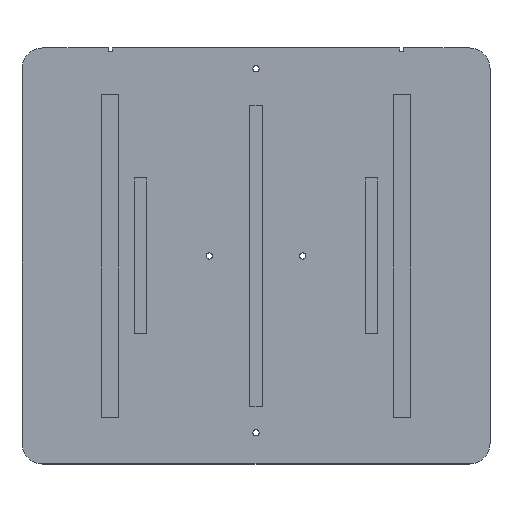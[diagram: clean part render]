
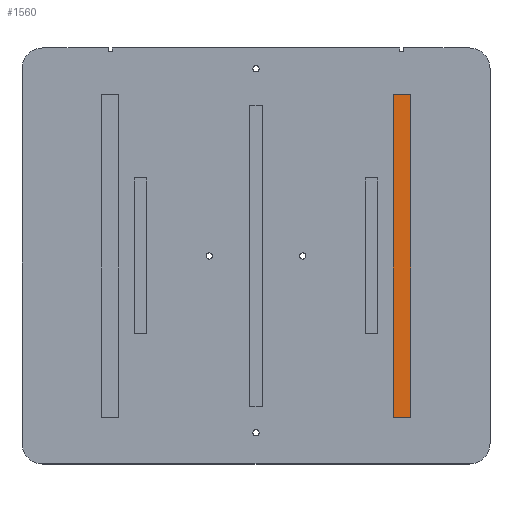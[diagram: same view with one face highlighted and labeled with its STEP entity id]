
A CAD part, top view. The second image highlights one B-rep face of the part: STEP entity #1560.
In plain terms, the highlighted planar face has unit normal (0, 0, 1).
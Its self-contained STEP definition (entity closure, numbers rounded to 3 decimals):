
#184 = EDGE_CURVE ( 'NONE', #1110, #601, #414, .T. ) ;
#222 = CARTESIAN_POINT ( 'NONE',  ( 0., 0., 12. ) ) ;
#274 = ORIENTED_EDGE ( 'NONE', *, *, #1001, .T. ) ;
#296 = CARTESIAN_POINT ( 'NONE',  ( 132., 155., 12. ) ) ;
#334 = CARTESIAN_POINT ( 'NONE',  ( 132., -155., 12. ) ) ;
#414 = LINE ( 'NONE', #919, #1581 ) ;
#466 = EDGE_LOOP ( 'NONE', ( #496, #518, #274, #488 ) ) ;
#487 = CARTESIAN_POINT ( 'NONE',  ( 132., 155., 12. ) ) ;
#488 = ORIENTED_EDGE ( 'NONE', *, *, #184, .T. ) ;
#496 = ORIENTED_EDGE ( 'NONE', *, *, #1498, .T. ) ;
#518 = ORIENTED_EDGE ( 'NONE', *, *, #1109, .T. ) ;
#572 = DIRECTION ( 'NONE',  ( 0., 1., 0. ) ) ;
#601 = VERTEX_POINT ( 'NONE', #1469 ) ;
#613 = VERTEX_POINT ( 'NONE', #1590 ) ;
#716 = LINE ( 'NONE', #334, #1530 ) ;
#719 = VECTOR ( 'NONE', #572, 1000. ) ;
#861 = CARTESIAN_POINT ( 'NONE',  ( 132., -155., 12. ) ) ;
#919 = CARTESIAN_POINT ( 'NONE',  ( 132., -155., 12. ) ) ;
#967 = DIRECTION ( 'NONE',  ( 0., 0., -1. ) ) ;
#983 = DIRECTION ( 'NONE',  ( -1., 0., 0. ) ) ;
#1001 = EDGE_CURVE ( 'NONE', #1279, #1110, #716, .T. ) ;
#1002 = FACE_OUTER_BOUND ( 'NONE', #466, .T. ) ;
#1109 = EDGE_CURVE ( 'NONE', #613, #1279, #1116, .T. ) ;
#1110 = VERTEX_POINT ( 'NONE', #861 ) ;
#1116 = LINE ( 'NONE', #487, #1122 ) ;
#1122 = VECTOR ( 'NONE', #983, 1000. ) ;
#1170 = LINE ( 'NONE', #1307, #719 ) ;
#1205 = DIRECTION ( 'NONE',  ( 0., -1., 0. ) ) ;
#1279 = VERTEX_POINT ( 'NONE', #296 ) ;
#1307 = CARTESIAN_POINT ( 'NONE',  ( 149., -155., 12. ) ) ;
#1338 = DIRECTION ( 'NONE',  ( -1., 0., 0. ) ) ;
#1404 = DIRECTION ( 'NONE',  ( 1., 0., 0. ) ) ;
#1469 = CARTESIAN_POINT ( 'NONE',  ( 149., -155., 12. ) ) ;
#1489 = PLANE ( 'NONE',  #1607 ) ;
#1498 = EDGE_CURVE ( 'NONE', #601, #613, #1170, .T. ) ;
#1530 = VECTOR ( 'NONE', #1205, 1000. ) ;
#1560 = ADVANCED_FACE ( 'NONE', ( #1002 ), #1489, .F. ) ;
#1581 = VECTOR ( 'NONE', #1404, 1000. ) ;
#1590 = CARTESIAN_POINT ( 'NONE',  ( 149., 155., 12. ) ) ;
#1607 = AXIS2_PLACEMENT_3D ( 'NONE', #222, #967, #1338 ) ;
